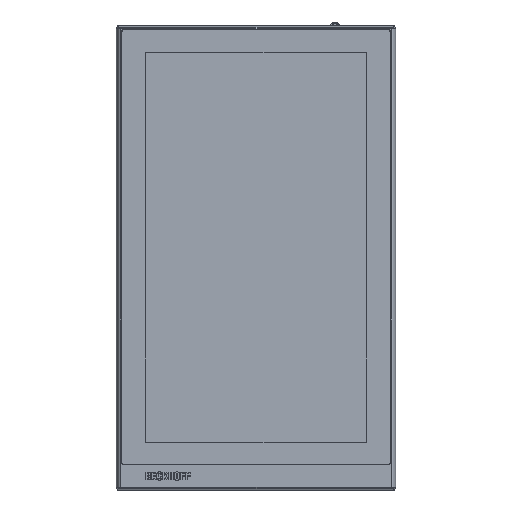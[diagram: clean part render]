
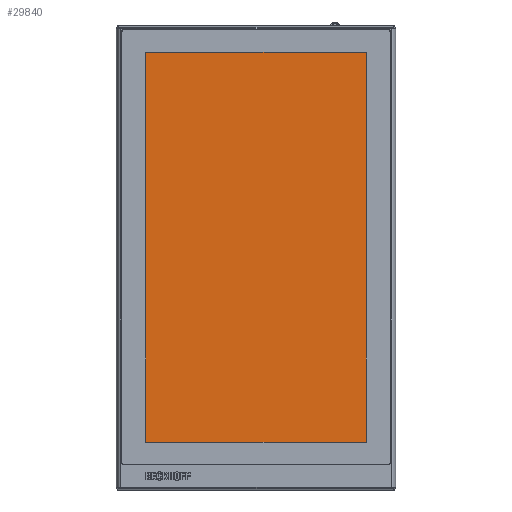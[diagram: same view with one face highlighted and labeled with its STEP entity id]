
A CAD part, top view. The second image highlights one B-rep face of the part: STEP entity #29840.
In plain terms, the highlighted planar face has unit normal (0, 0, 1).
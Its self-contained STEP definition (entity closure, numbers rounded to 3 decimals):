
#2743=LINE('',#50179,#5390);
#2746=LINE('',#50184,#5393);
#2754=LINE('',#50208,#5401);
#2756=LINE('',#50211,#5403);
#5390=VECTOR('',#38710,346.);
#5393=VECTOR('',#38715,195.5);
#5401=VECTOR('',#38745,195.5);
#5403=VECTOR('',#38749,346.);
#6750=PLANE('',#32090);
#8616=FACE_OUTER_BOUND('',#10482,.T.);
#10482=EDGE_LOOP('',(#24582,#24583,#24584,#24585));
#14086=VERTEX_POINT('',#50177);
#14087=VERTEX_POINT('',#50178);
#14088=VERTEX_POINT('',#50183);
#14093=VERTEX_POINT('',#50207);
#17805=EDGE_CURVE('',#14086,#14087,#2743,.T.);
#17808=EDGE_CURVE('',#14087,#14088,#2746,.T.);
#17820=EDGE_CURVE('',#14093,#14086,#2754,.T.);
#17822=EDGE_CURVE('',#14088,#14093,#2756,.T.);
#24582=ORIENTED_EDGE('',*,*,#17820,.F.);
#24583=ORIENTED_EDGE('',*,*,#17822,.F.);
#24584=ORIENTED_EDGE('',*,*,#17808,.F.);
#24585=ORIENTED_EDGE('',*,*,#17805,.F.);
#29840=ADVANCED_FACE('',(#8616),#6750,.T.);
#32090=AXIS2_PLACEMENT_3D('',#50212,#38750,#38751);
#38710=DIRECTION('',(0.,1.,0.));
#38715=DIRECTION('',(1.,0.,0.));
#38745=DIRECTION('',(-1.,0.,0.));
#38749=DIRECTION('',(0.,-1.,0.));
#38750=DIRECTION('center_axis',(0.,0.,
1.));
#38751=DIRECTION('ref_axis',(0.,1.,0.));
#50177=CARTESIAN_POINT('',(-304.205,-169.06,-0.7));
#50178=CARTESIAN_POINT('',(-304.205,176.94,-0.7));
#50179=CARTESIAN_POINT('',(-304.205,90.44,-0.7));
#50183=CARTESIAN_POINT('',(-108.705,176.94,-0.7));
#50184=CARTESIAN_POINT('',(-157.58,176.94,-0.7));
#50207=CARTESIAN_POINT('',(-108.705,-169.06,-0.7));
#50208=CARTESIAN_POINT('',(-255.33,-169.06,-0.7));
#50211=CARTESIAN_POINT('',(-108.705,-82.56,-0.7));
#50212=CARTESIAN_POINT('Origin',(-206.455,3.94,-0.7));
